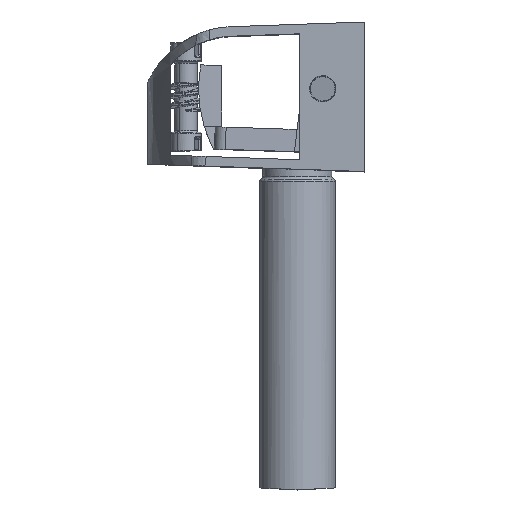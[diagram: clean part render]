
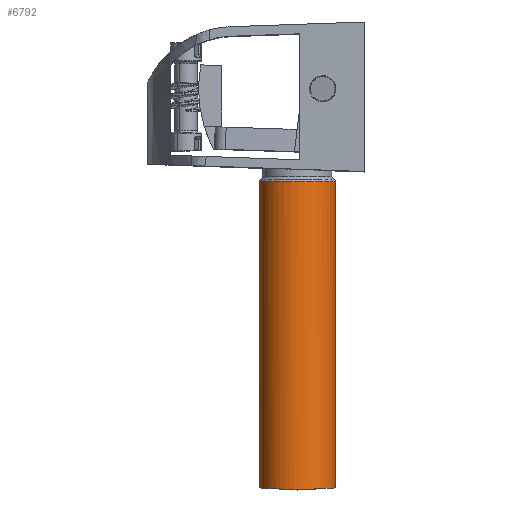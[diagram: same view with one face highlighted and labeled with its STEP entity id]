
A CAD part, top view. The second image highlights one B-rep face of the part: STEP entity #6792.
In plain terms, the highlighted cylindrical face has radius 5.95 mm (diameter 11.9 mm), a partial arc.
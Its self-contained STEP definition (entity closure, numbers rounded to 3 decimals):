
#115 = ORIENTED_EDGE ( 'NONE', *, *, #15863, .T. ) ;
#959 = ORIENTED_EDGE ( 'NONE', *, *, #11773, .F. ) ;
#2253 = CARTESIAN_POINT ( 'NONE',  ( 0., -61.438, -5.95 ) ) ;
#2295 = CYLINDRICAL_SURFACE ( 'NONE', #10114, 5.95 ) ;
#2367 = CARTESIAN_POINT ( 'NONE',  ( 0., 0., -5.95 ) ) ;
#3401 = CARTESIAN_POINT ( 'NONE',  ( 0., -13.347, 0. ) ) ;
#4106 = CARTESIAN_POINT ( 'NONE',  ( 0., -61.438, 5.95 ) ) ;
#4107 = ORIENTED_EDGE ( 'NONE', *, *, #16071, .T. ) ;
#4272 = EDGE_CURVE ( 'NONE', #12077, #7003, #11180, .T. ) ;
#4417 = DIRECTION ( 'NONE',  ( 0., 1., 0. ) ) ;
#4987 = DIRECTION ( 'NONE',  ( 0., 1., 0. ) ) ;
#5079 = CARTESIAN_POINT ( 'NONE',  ( -3.485, -61.438, -5.95 ) ) ;
#5216 = DIRECTION ( 'NONE',  ( 0., 0., 1. ) ) ;
#6112 = EDGE_LOOP ( 'NONE', ( #11861, #4107, #7493, #115, #959 ) ) ;
#6224 = EDGE_CURVE ( 'NONE', #13892, #9923, #7990, .T. ) ;
#6270 = CARTESIAN_POINT ( 'NONE',  ( 0., -61.438, -5.95 ) ) ;
#6561 = DIRECTION ( 'NONE',  ( 0., 1., 0. ) ) ;
#6792 = ADVANCED_FACE ( 'NONE', ( #10830 ), #2295, .T. ) ;
#6890 = AXIS2_PLACEMENT_3D ( 'NONE', #3401, #4417, #8760 ) ;
#7003 = VERTEX_POINT ( 'NONE', #4106 ) ;
#7034 = CARTESIAN_POINT ( 'NONE',  ( -5.95, -61.567, 3.485 ) ) ;
#7493 = ORIENTED_EDGE ( 'NONE', *, *, #4272, .T. ) ;
#7990 = LINE ( 'NONE', #2367, #15633 ) ;
#8760 = DIRECTION ( 'NONE',  ( 0., 0., 1. ) ) ;
#8974 = CARTESIAN_POINT ( 'NONE',  ( 0., 0., 5.95 ) ) ;
#9923 = VERTEX_POINT ( 'NONE', #11489 ) ;
#10114 = AXIS2_PLACEMENT_3D ( 'NONE', #16337, #6561, #5216 ) ;
#10323 = LINE ( 'NONE', #8974, #15717 ) ;
#10710 = VERTEX_POINT ( 'NONE', #11457 ) ;
#10830 = FACE_OUTER_BOUND ( 'NONE', #6112, .T. ) ;
#11180 =( BOUNDED_CURVE ( )  B_SPLINE_CURVE ( 3, ( #14016, #7034, #12663, #17556 ),
 .UNSPECIFIED., .F., .F. ) 
 B_SPLINE_CURVE_WITH_KNOTS ( ( 4, 4 ),
 ( 4.712, 6.283 ),
 .UNSPECIFIED. ) 
 CURVE ( )  GEOMETRIC_REPRESENTATION_ITEM ( )  RATIONAL_B_SPLINE_CURVE ( ( 1., 0.805, 0.805, 1. ) ) 
 REPRESENTATION_ITEM ( '' )  );
#11457 = CARTESIAN_POINT ( 'NONE',  ( 0., -13.347, 5.95 ) ) ;
#11489 = CARTESIAN_POINT ( 'NONE',  ( 0., -13.347, -5.95 ) ) ;
#11773 = EDGE_CURVE ( 'NONE', #9923, #10710, #17860, .T. ) ;
#11861 = ORIENTED_EDGE ( 'NONE', *, *, #6224, .F. ) ;
#11916 = CARTESIAN_POINT ( 'NONE',  ( -5.95, -61.75, 0. ) ) ;
#11958 = CARTESIAN_POINT ( 'NONE',  ( -5.95, -61.567, -3.485 ) ) ;
#12077 = VERTEX_POINT ( 'NONE', #11916 ) ;
#12663 = CARTESIAN_POINT ( 'NONE',  ( -3.485, -61.438, 5.95 ) ) ;
#13892 = VERTEX_POINT ( 'NONE', #6270 ) ;
#14016 = CARTESIAN_POINT ( 'NONE',  ( -5.95, -61.75, 0. ) ) ;
#15633 = VECTOR ( 'NONE', #16578, 1000. ) ;
#15717 = VECTOR ( 'NONE', #4987, 1000. ) ;
#15863 = EDGE_CURVE ( 'NONE', #7003, #10710, #10323, .T. ) ;
#16071 = EDGE_CURVE ( 'NONE', #13892, #12077, #16341, .T. ) ;
#16337 = CARTESIAN_POINT ( 'NONE',  ( 0., 0., 0. ) ) ;
#16341 =( BOUNDED_CURVE ( )  B_SPLINE_CURVE ( 3, ( #2253, #5079, #11958, #17467 ),
 .UNSPECIFIED., .F., .T. ) 
 B_SPLINE_CURVE_WITH_KNOTS ( ( 4, 4 ),
 ( 0., 1.571 ),
 .UNSPECIFIED. ) 
 CURVE ( )  GEOMETRIC_REPRESENTATION_ITEM ( )  RATIONAL_B_SPLINE_CURVE ( ( 1., 0.805, 0.805, 1. ) ) 
 REPRESENTATION_ITEM ( '' )  );
#16578 = DIRECTION ( 'NONE',  ( 0., 1., 0. ) ) ;
#17467 = CARTESIAN_POINT ( 'NONE',  ( -5.95, -61.75, 0. ) ) ;
#17556 = CARTESIAN_POINT ( 'NONE',  ( 0., -61.438, 5.95 ) ) ;
#17860 = CIRCLE ( 'NONE', #6890, 5.95 ) ;
